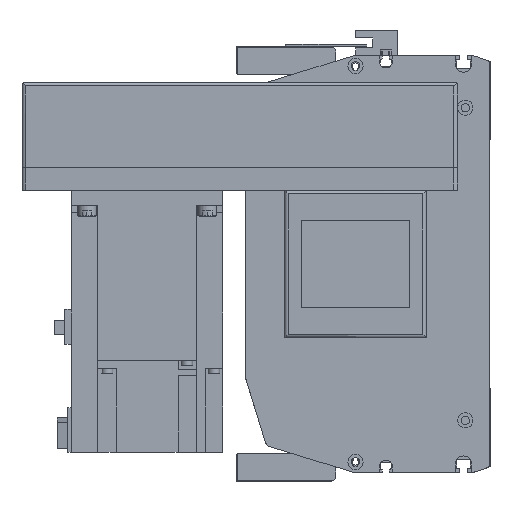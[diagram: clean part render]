
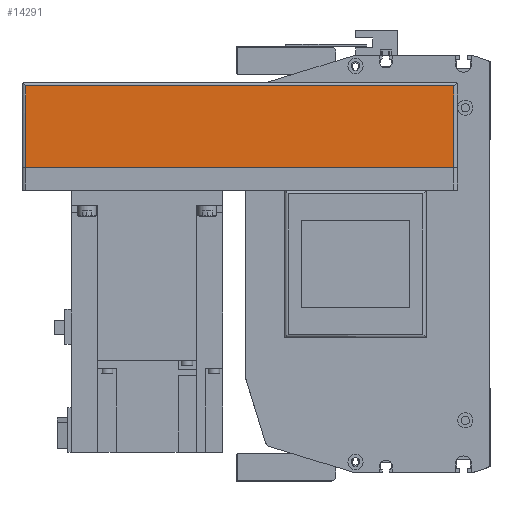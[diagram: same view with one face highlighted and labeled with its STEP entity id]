
A CAD part, left-side view. The second image highlights one B-rep face of the part: STEP entity #14291.
In plain terms, the highlighted planar face has unit normal (-1, 0, 0) as drawn and (0, 1, 0) by its records, which use the part's own axes.
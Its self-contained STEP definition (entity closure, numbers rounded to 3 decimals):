
#2436=ORIENTED_EDGE('',*,*,#5830,.F.);
#2437=ORIENTED_EDGE('',*,*,#5770,.T.);
#2438=ORIENTED_EDGE('',*,*,#5831,.F.);
#2439=ORIENTED_EDGE('',*,*,#5765,.F.);
#5765=EDGE_CURVE('',#7608,#7609,#9086,.T.);
#5770=EDGE_CURVE('',#7614,#7613,#9088,.T.);
#5830=EDGE_CURVE('',#7614,#7608,#9131,.T.);
#5831=EDGE_CURVE('',#7609,#7613,#9132,.T.);
#7608=VERTEX_POINT('',#22224);
#7609=VERTEX_POINT('',#22226);
#7613=VERTEX_POINT('',#22235);
#7614=VERTEX_POINT('',#22237);
#9086=LINE('',#22225,#10429);
#9088=LINE('',#22236,#10431);
#9131=LINE('',#22359,#10474);
#9132=LINE('',#22360,#10475);
#10429=VECTOR('',#17763,1000.);
#10431=VECTOR('',#17773,1000.);
#10474=VECTOR('',#17894,1000.);
#10475=VECTOR('',#17895,1000.);
#11626=EDGE_LOOP('',(#2436,#2437,#2438,#2439));
#12729=FACE_BOUND('',#11626,.T.);
#13670=PLANE('',#15344);
#14291=ADVANCED_FACE('',(#12729),#13670,.T.);
#15344=AXIS2_PLACEMENT_3D('',#22358,#17892,#17893);
#17763=DIRECTION('',(0.,0.,1.));
#17773=DIRECTION('',(0.,0.,1.));
#17892=DIRECTION('',(0.,1.,0.));
#17893=DIRECTION('',(0.,0.,1.));
#17894=DIRECTION('',(1.,0.,0.));
#17895=DIRECTION('',(-1.,0.,0.));
#22224=CARTESIAN_POINT('',(-2.,54.,-55.));
#22225=CARTESIAN_POINT('',(-2.,54.,-57.));
#22226=CARTESIAN_POINT('',(-2.,54.,-12.));
#22235=CARTESIAN_POINT('',(-228.,54.,-12.));
#22236=CARTESIAN_POINT('',(-228.,54.,-57.));
#22237=CARTESIAN_POINT('',(-228.,54.,-55.));
#22358=CARTESIAN_POINT('',(-2.,54.,-57.));
#22359=CARTESIAN_POINT('',(-230.,54.,-55.));
#22360=CARTESIAN_POINT('',(-2.,54.,-12.));
